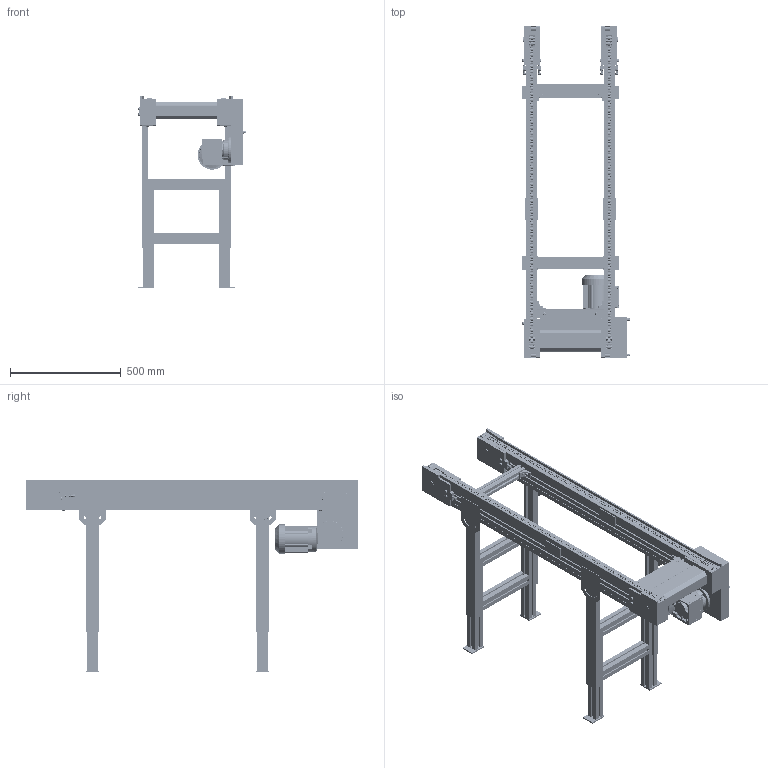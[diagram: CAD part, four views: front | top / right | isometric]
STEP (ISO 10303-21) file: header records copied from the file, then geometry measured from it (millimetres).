
FILE_DESCRIPTION(/* description */ (''),/* implementation_level */ '2;1');
FILE_NAME(/* name */ 'C:\Marketing\01_Versamove-SPU_STEP-Dateien-Homepage\Versamove plus\STEP-Dateien\Staurollenförderer_SRF-P-2010_B400_L1500.stp',/* time_stamp */ '2016-12-22T14:13:05+01:00',/* author */ ('herbert.engels'),/* organization */ (''),/* preprocessor_version */ 'ST-DEVELOPER v15.6',/* originating_system */ 'Autodesk Inventor 2015',/* authorisation */ '');
FILE_SCHEMA (('CONFIG_CONTROL_DESIGN'));
Products named in the file (1): Staurollenförderer_SRF-P-2010_B400_L1500
Bounding box: 490.6 x 1500 x 870 mm (x, y, z)
Volume: 25518266.8 mm3; surface area: 5973265.1 mm2
Topology: 1 solids, 1 shells, 7797 faces, 24769 edges, 15804 vertices
Faces by surface type: plane 3818, cylinder 3384, torus 409, cone 102, bspline 80, sphere 4
Full cylindrical faces by diameter (mm): 2 x4, 4 x16, 6.5 x112, 8 x49, 8.51 x448, 9.5 x2, 10 x441, 12 x3, 13 x26, 16 x93, 16.2 x8, 18 x4, 19 x2, 20 x9, 24 x1, 25.5 x4, 35 x8, 54.4 x4, 55 x8, 70 x12, 72 x1, 117 x1, 120 x1, 132 x1
Entity records: 277900 total; most frequent: CARTESIAN_POINT 53115, DIRECTION 47164, ORIENTED_EDGE 44902, EDGE_CURVE 22432, AXIS2_PLACEMENT_3D 18177, VERTEX_POINT 14853, LINE 10810, VECTOR 10810
